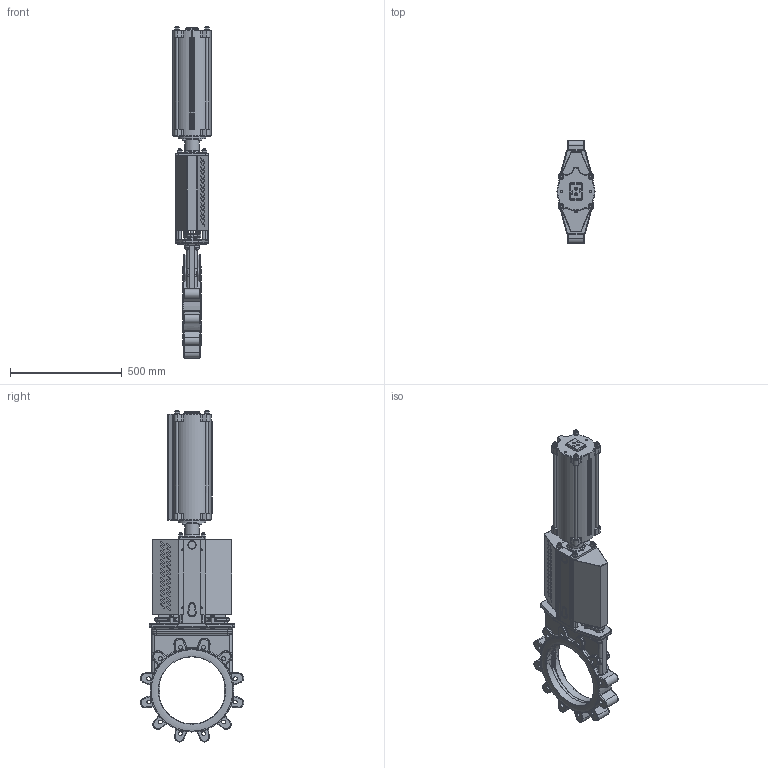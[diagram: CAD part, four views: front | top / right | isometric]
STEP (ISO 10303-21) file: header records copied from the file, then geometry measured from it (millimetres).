
FILE_DESCRIPTION(/* description */ (''),/* implementation_level */ '2;1');
FILE_NAME(/* name */ 'F:\Emir\3D-block special\WB\WB14-DN300-PN10-FRSC160-320.stp',/* time_stamp */ '2018-05-03T14:00:22+02:00',/* author */ ('emimus'),/* organization */ (''),/* preprocessor_version */ 'ST-DEVELOPER v17',/* originating_system */ 'Autodesk Inventor 2018',/* authorisation */ '');
FILE_SCHEMA (('CONFIG_CONTROL_DESIGN'));
Products named in the file (1): WB14-DN300-PN10-FRSC160-320
Bounding box: 170 x 461.28 x 1483.64 mm (x, y, z)
Volume: 13054060.9 mm3; surface area: 2835646.1 mm2
Topology: 3 solids, 3 shells, 3079 faces, 7997 edges, 4937 vertices
Faces by surface type: plane 1105, cylinder 931, bspline 373, torus 339, cone 231, sphere 100
Full cylindrical faces by diameter (mm): 3.5 x8, 3.7 x8, 4 x6, 4.134 x4, 4.5 x4, 4.917 x4, 8 x2, 8.376 x2, 9.5 x4, 10 x11, 10.25 x4, 11.445 x2, 12 x28, 13 x17, 15 x4, 16 x6, 17.5 x16, 17.7 x1, 18 x4, 20 x1, 24 x14, 28 x2, 30 x1, 30.1 x2, 34 x1, 36 x1, 36.4 x1, 38 x3, 50 x1, 55 x1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
Entity records: 134818 total; most frequent: CARTESIAN_POINT 60408, ORIENTED_EDGE 15824, DIRECTION 15787, EDGE_CURVE 7912, AXIS2_PLACEMENT_3D 6351, VERTEX_POINT 4937, EDGE_LOOP 3429, CIRCLE 3327
